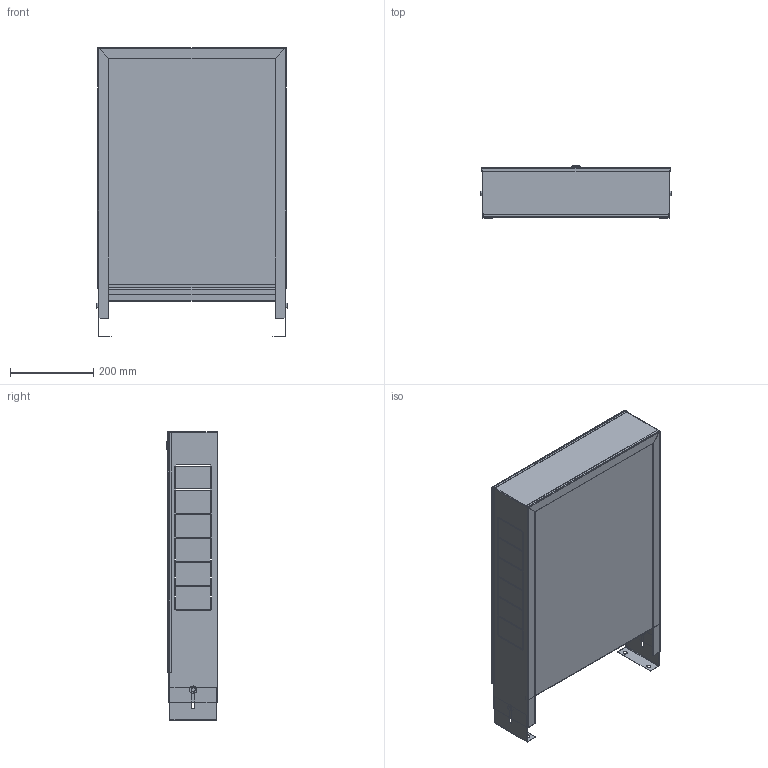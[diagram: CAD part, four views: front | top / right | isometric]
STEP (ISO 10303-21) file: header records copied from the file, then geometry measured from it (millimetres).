
FILE_DESCRIPTION(('TFLEX Exchange Step'),'2;1');
FILE_NAME('Manifold cabinet VTc.541.0.01 Valtec.stp', '2023-10-11T13:38:43+03:00',('denis'),('Unknown organisation'),'TFLEX Exchange 2023.0','T-FLEX CAD','Unknown authorisation');
FILE_SCHEMA( ('AUTOMOTIVE_DESIGN { 1 0 10303 214 1 1 1 1 }') );
Length unit declared in the file: millimetre
Products named in the file (1): Nodes
Bounding box: 459 x 124.9 x 695 mm (x, y, z)
Volume: 703747.1 mm3; surface area: 1759413.5 mm2
Topology: 11 solids, 12 shells, 504 faces, 1315 edges, 849 vertices
Faces by surface type: plane 372, cylinder 87, cone 31, bspline 12, torus 2
Full cylindrical faces by diameter (mm): 6 x4, 6.4 x2, 7 x2, 10 x5, 12 x1, 16 x1, 18 x2, 20 x2
Entity records: 17925 total; most frequent: CARTESIAN_POINT 5444, ORIENTED_EDGE 2630, DIRECTION 2371, EDGE_CURVE 1315, VECTOR 989, LINE 989, VERTEX_POINT 849, AXIS2_PLACEMENT_3D 691
